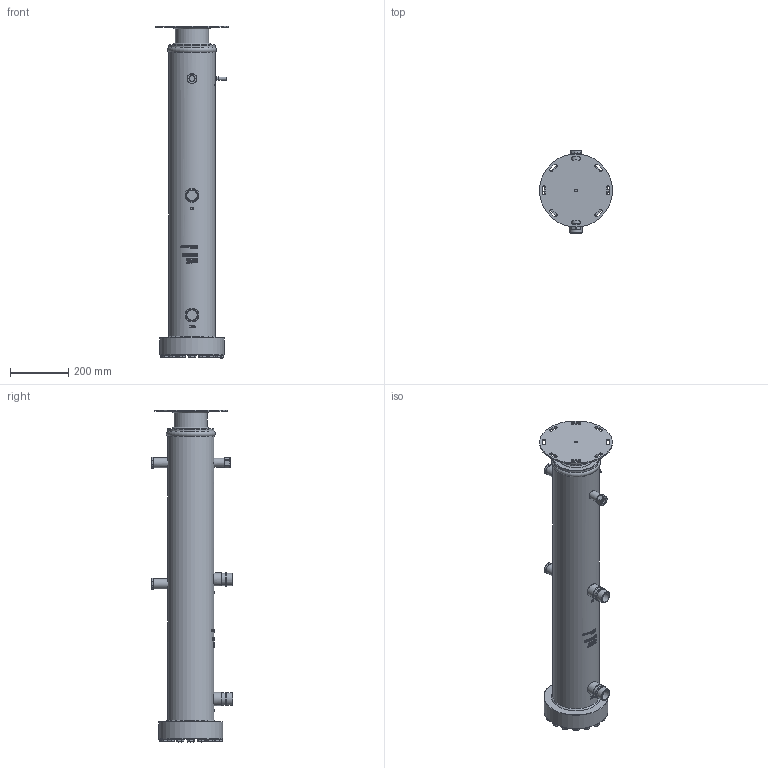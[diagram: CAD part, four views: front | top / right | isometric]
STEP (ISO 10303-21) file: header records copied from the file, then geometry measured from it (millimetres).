
FILE_DESCRIPTION(/* description */ (''),/* implementation_level */ '2;1');
FILE_NAME(/* name */ 'P:\OSR\BOS3-R-CDH-1BF\BOS3-R-CDH-1BF.stp',/* time_stamp */ '2019-08-21T11:30:52+02:00',/* author */ ('neufeld'),/* organization */ (''),/* preprocessor_version */ 'ST-DEVELOPER v17',/* originating_system */ 'Autodesk Inventor 2019',/* authorisation */ '');
FILE_SCHEMA (('AUTOMOTIVE_DESIGN { 1 0 10303 214 3 1 1 }'));
Products named in the file (1): BOS3-R-CDH-1BF_AG-Kunde_Rev.1
Bounding box: 250 x 280.6 x 1137.8 mm (x, y, z)
Volume: 23423222.4 mm3; surface area: 782684.2 mm2
Topology: 1 solids, 1 shells, 1870 faces, 4954 edges, 3292 vertices
Faces by surface type: bspline 798, plane 694, cylinder 244, cone 130, torus 4
Full cylindrical faces by diameter (mm): 6.2 x1, 8.376 x1, 10 x2, 14 x1, 15 x1, 20.1 x16, 24 x2, 28 x16, 30 x1, 35 x2, 35.2 x2, 42.4 x4, 45 x2, 47.6 x2, 114.3 x1, 159 x2, 220 x1, 250 x1
Entity records: 75806 total; most frequent: CARTESIAN_POINT 34132, ORIENTED_EDGE 9908, DIRECTION 6150, EDGE_CURVE 4954, VERTEX_POINT 3292, LINE 2176, VECTOR 2176, EDGE_LOOP 2092
